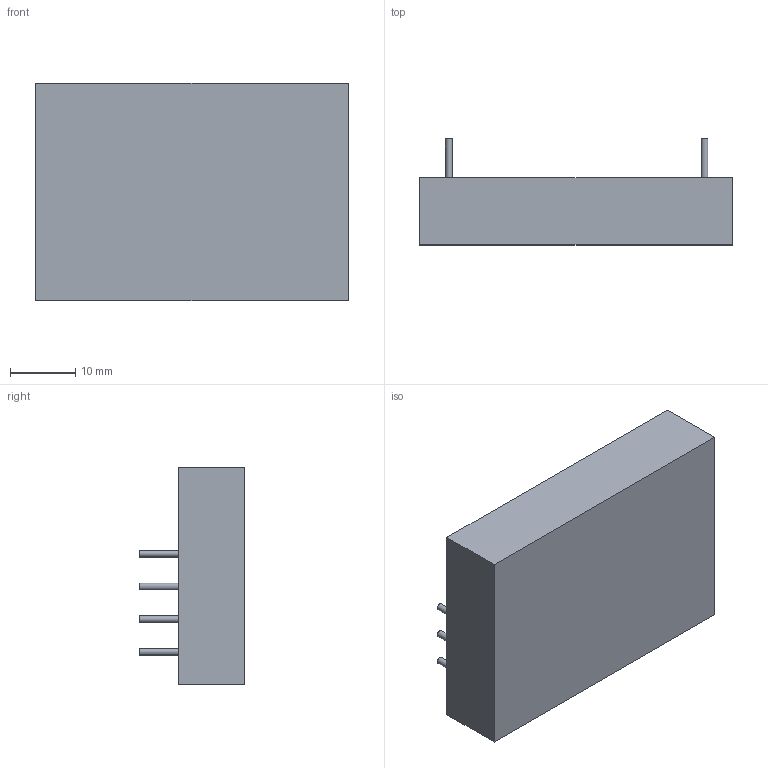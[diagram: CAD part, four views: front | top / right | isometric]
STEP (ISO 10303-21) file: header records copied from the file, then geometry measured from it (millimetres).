
FILE_DESCRIPTION(('STEP AP203'), '1');
FILE_NAME('ﾌﾄﾌ25-1ﾏ ﾈ2', '', ('UNSPECIFIED'), ('UNSPECIFIED'), 'C3D Converter', 'C3D Toolkit', '');
FILE_SCHEMA(('CONFIG_CONTROL_DESIGN'));
Length unit declared in the file: millimetre
Products named in the file (1): МДМ7,5(10)-1
Bounding box: 47.7 x 16.2 x 33.2 mm (x, y, z)
Volume: 16186.1 mm3; surface area: 4949.6 mm2
Topology: 1 solids, 1 shells, 20 faces, 33 edges, 22 vertices
Faces by surface type: plane 13, cylinder 7
Full cylindrical faces by diameter (mm): 1 x7
Entity records: 631 total; most frequent: DIRECTION 82, CARTESIAN_POINT 69, ORIENTED_EDGE 52, AXIS2_PLACEMENT_3D 35, EDGE_LOOP 34, EDGE_CURVE 26, VERTEX_POINT 22, COLOUR_RGB 21
